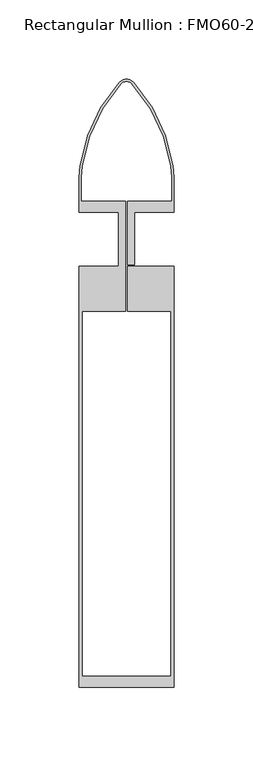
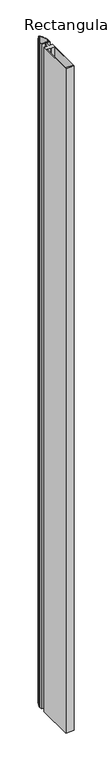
"""IFC4 building model written with IfcOpenShell, lengths in millimetres: member geometry, Rectangular Mullion : FMO60-270...FM60-80."""

from ifc_helpers import new_model, si_unit, frame, origin, place, context, project, spatial, polyline, circle_curve, source, transform, mapped, element, save
from ifc_brep_helpers import plane_surface, cylinder_surface, revolved_surface, advanced_brep


def rectangular_mullion_fmo60_270_fm60_80_afe78c0d(model_context):
    return source(origin(), model_context, "Body", "AdvancedBrep", [
        advanced_brep(
        [(-4.7233463, 98.6502996, 0.0), (-29.4612692, 46.2333488, 0.0), (-30.0, 38.9133183, 0.0), (-30.0, 17.0, 0.0), (-5.0, 17.0, 0.0), (-5.0, -17.0, 0.0), (-30.0, -17.0, 0.0), (-30.0, -283.009342, 0.0), (30.0, -283.009342, 0.0), (30.0, -17.0, 0.0), (0.5, -17.0, 0.0), (0.5, -45.5034642, 0.0), (28.0, -45.5034642, 0.0), (28.0, -276.0034417, 0.0), (-28.0, -276.0034417, 0.0), (-28.0, -45.5034642, 0.0), (-0.5, -45.5034642, 0.0), (-0.5, 23.8476589, 0.0), (-28.6, 23.8476589, 0.0), (-28.6, 38.9133183, 0.0), (-28.0754927, 46.0342032, 0.0), (-3.6212321, 97.7869663, 0.0), (0.0, 99.5502996, 0.0), (3.6212321, 97.7869663, 0.0), (28.0763537, 46.0283879, 0.0), (28.6, 38.9133183, 0.0), (28.6000412, 23.8476589, 0.0), (0.5, 23.8476589, 0.0), (0.5, -16.2, 0.0), (5.0, -16.2, 0.0), (5.0, 17.0, 0.0), (30.0, 17.0, 0.0), (30.0, 38.9133183, 0.0), (29.4612692, 46.2333488, 0.0), (4.7233463, 98.6502996, 0.0), (0.0, 100.9502996, 0.0), (-4.7233463, 98.6502996, -5000.0), (0.0, 100.9502996, -5000.0), (4.7233463, 98.6502996, -5000.0), (29.4612692, 46.2333488, -5000.0), (30.0, 38.9133183, -5000.0), (30.0, 17.0, -5000.0), (5.0, 17.0, -5000.0), (5.0, -16.2, -5000.0), (0.5, -16.2, -5000.0), (0.5, 23.8476589, -5000.0), (28.6000412, 23.8476589, -5000.0), (28.6000412, 38.9133183, -5000.0), (28.0754927, 46.0342032, -5000.0), (3.6212321, 97.7869663, -5000.0), (0.0, 99.5502996, -5000.0), (-3.6212321, 97.7869663, -5000.0), (-28.0763537, 46.0283879, -5000.0), (-28.6, 38.9133183, -5000.0), (-28.6, 23.8476589, -5000.0), (-0.5, 23.8476589, -5000.0), (-0.5, -45.5034642, -5000.0), (-28.0, -45.5034642, -5000.0), (-28.0, -276.0034417, -5000.0), (28.0, -276.0034417, -5000.0), (28.0, -45.5034642, -5000.0), (0.5, -45.5034642, -5000.0), (0.5, -17.0, -5000.0), (30.0, -17.0, -5000.0), (30.0, -283.009342, -5000.0), (-30.0, -283.009342, -5000.0), (-30.0, -17.0, -5000.0), (-5.0, -17.0, -5000.0), (-5.0, 17.0, -5000.0), (-30.0, 17.0, -5000.0), (-30.0, 38.9133183, -5000.0), (-29.4612692, 46.2333488, -5000.0)],
        [
            (0, 1, circle_curve(frame((69.4612692, 31.5932879, 0.0), z_axis=(0.0, 0.0, 1.0), x_axis=(-0.989225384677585, 0.14640060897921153, 0.0)), 100.0)),
            (1, 2, circle_curve(frame((20.0, 38.9133183, 0.0), z_axis=(0.0, 0.0, 1.0), x_axis=(-1.0, 0.0, 0.0)), 50.0)),
            (2, 3),
            (3, 4),
            (4, 5),
            (5, 6),
            (6, 7),
            (7, 8),
            (8, 9),
            (9, 10),
            (10, 11),
            (11, 12),
            (12, 13),
            (13, 14),
            (14, 15),
            (15, 16),
            (16, 17),
            (17, 18),
            (18, 19),
            (19, 20, circle_curve(frame((20.0, 38.9133183, 0.0), z_axis=(0.0, 0.0, -1.0), x_axis=(-0.9892253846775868, 0.1464006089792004, 0.0)), 48.6)),
            (20, 21, circle_curve(frame((69.5008187, 31.5813159, 0.0), z_axis=(0.0, 0.0, -1.0), x_axis=(-0.7412956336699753, 0.6711786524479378, 0.0)), 98.6408763)),
            (21, 22, circle_curve(frame((0.0, 94.9502996, 0.0), z_axis=(0.0, 0.0, -1.0), x_axis=(2.979563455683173e-11, 1.0, 0.0)), 4.6)),
            (22, 23, circle_curve(frame((0.0, 94.9502996, 0.0), z_axis=(0.0, 0.0, -1.0), x_axis=(0.7872243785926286, 0.6166666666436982, 0.0)), 4.6)),
            (23, 24, circle_curve(frame((-69.5008187, 31.5813159, 0.0), z_axis=(0.0, 0.0, -1.0), x_axis=(0.9892163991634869, 0.1464613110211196, 0.0)), 98.6408763)),
            (24, 25, circle_curve(frame((-20.0, 38.9133183, 0.0), z_axis=(0.0, 0.0, -1.0), x_axis=(1.0, 0.0, 0.0)), 48.6)),
            (25, 26),
            (26, 27),
            (27, 28),
            (28, 29),
            (29, 30),
            (30, 31),
            (31, 32),
            (32, 33, circle_curve(frame((-20.0, 38.9133183, 0.0), z_axis=(0.0, 0.0, 1.0), x_axis=(0.9892253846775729, 0.14640060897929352, 0.0)), 50.0)),
            (33, 34, circle_curve(frame((-69.4612692, 31.5932879, 0.0), z_axis=(0.0, 0.0, 1.0), x_axis=(0.7418461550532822, 0.6705701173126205, 0.0)), 100.0)),
            (34, 35, circle_curve(frame((0.0, 94.9502996, 0.0), z_axis=(0.0, 0.0, 1.0), x_axis=(2.31065537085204e-11, 1.0, 0.0)), 6.0)),
            (35, 0, circle_curve(frame((0.0, 94.9502996, 0.0), z_axis=(0.0, 0.0, 1.0), x_axis=(-0.7872243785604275, 0.6166666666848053, 0.0)), 6.0)),
            (36, 37, circle_curve(frame((0.0, 94.9502996, -5000.0), z_axis=(0.0, 0.0, -1.0), x_axis=(-0.7872243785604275, 0.6166666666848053, 0.0)), 6.0)),
            (37, 38, circle_curve(frame((0.0, 94.9502996, -5000.0), z_axis=(0.0, 0.0, -1.0), x_axis=(2.31065537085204e-11, 1.0, 0.0)), 6.0)),
            (38, 39, circle_curve(frame((-69.4612692, 31.5932879, -5000.0), z_axis=(0.0, 0.0, -1.0), x_axis=(0.7418461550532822, 0.6705701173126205, 0.0)), 100.0)),
            (39, 40, circle_curve(frame((-20.0, 38.9133183, -5000.0), z_axis=(0.0, 0.0, -1.0), x_axis=(0.9892253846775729, 0.14640060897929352, 0.0)), 50.0)),
            (40, 41),
            (41, 42),
            (42, 43),
            (43, 44),
            (44, 45),
            (45, 46),
            (46, 47),
            (47, 48, circle_curve(frame((-20.0, 38.9133183, -5000.0), z_axis=(0.0, 0.0, 1.0), x_axis=(1.0, 0.0, 0.0)), 48.6)),
            (48, 49, circle_curve(frame((-69.5008187, 31.5813159, -5000.0), z_axis=(0.0, 0.0, 1.0), x_axis=(0.9892163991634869, 0.1464613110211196, 0.0)), 98.6408763)),
            (49, 50, circle_curve(frame((0.0, 94.9502996, -5000.0), z_axis=(0.0, 0.0, 1.0), x_axis=(0.7872243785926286, 0.6166666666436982, 0.0)), 4.6)),
            (50, 51, circle_curve(frame((0.0, 94.9502996, -5000.0), z_axis=(0.0, 0.0, 1.0), x_axis=(2.979563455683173e-11, 1.0, 0.0)), 4.6)),
            (51, 52, circle_curve(frame((69.5008187, 31.5813159, -5000.0), z_axis=(0.0, 0.0, 1.0), x_axis=(-0.7412956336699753, 0.6711786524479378, 0.0)), 98.6408763)),
            (52, 53, circle_curve(frame((20.0, 38.9133183, -5000.0), z_axis=(0.0, 0.0, 1.0), x_axis=(-0.9892253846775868, 0.1464006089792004, 0.0)), 48.6)),
            (53, 54),
            (54, 55),
            (55, 56),
            (56, 57),
            (57, 58),
            (58, 59),
            (59, 60),
            (60, 61),
            (61, 62),
            (62, 63),
            (63, 64),
            (64, 65),
            (65, 66),
            (66, 67),
            (67, 68),
            (68, 69),
            (69, 70),
            (70, 71, circle_curve(frame((20.0, 38.9133183, -5000.0), z_axis=(0.0, 0.0, -1.0), x_axis=(-1.0, 0.0, 0.0)), 50.0)),
            (71, 36, circle_curve(frame((69.4612692, 31.5932879, -5000.0), z_axis=(0.0, 0.0, -1.0), x_axis=(-0.989225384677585, 0.14640060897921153, 0.0)), 100.0)),
            (0, 36),
            (71, 1),
            (70, 2),
            (69, 3),
            (68, 4),
            (67, 5),
            (66, 6),
            (65, 7),
            (64, 8),
            (63, 9),
            (62, 10),
            (61, 11),
            (60, 12),
            (59, 13),
            (58, 14),
            (57, 15),
            (56, 16),
            (55, 17),
            (54, 18),
            (53, 19),
            (52, 20),
            (51, 21),
            (50, 22),
            (49, 23),
            (48, 24),
            (47, 25),
            (46, 26),
            (45, 27),
            (44, 28),
            (43, 29),
            (42, 30),
            (41, 31),
            (40, 32),
            (39, 33),
            (38, 34),
            (37, 35),
        ],
        [
            plane_surface(frame((0.0, -284.5949537, 0.0), z_axis=(0.0, 0.0, 1.0), x_axis=(-1.0, 0.0, 0.0))),
            plane_surface(frame((0.0, -284.5949537, -5000.0), z_axis=(0.0, 0.0, -1.0), x_axis=(-1.0, 0.0, 0.0))),
            cylinder_surface(frame((69.4612692, 31.5932879, 0.0), z_axis=(0.0, 0.0, 1.0), x_axis=(-0.989225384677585, 0.14640060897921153, 0.0)), 100.0),
            cylinder_surface(frame((20.0, 38.9133183, 0.0), z_axis=(0.0, 0.0, 1.0), x_axis=(-1.0, 0.0, 0.0)), 50.0),
            plane_surface(frame((-30.0, 38.9133183, 0.0), z_axis=(-1.0, 0.0, 0.0), x_axis=(0.0, 0.0, -1.0))),
            plane_surface(frame((-30.0, 17.0, 0.0), z_axis=(0.0, -1.0, 0.0), x_axis=(0.0, 0.0, -1.0))),
            plane_surface(frame((-5.0, 17.0, 0.0), z_axis=(-1.0, 0.0, 0.0), x_axis=(0.0, 0.0, -1.0))),
            plane_surface(frame((-5.0, -17.0, 0.0), z_axis=(0.0, 1.0, 0.0), x_axis=(0.0, 0.0, -1.0))),
            plane_surface(frame((-30.0, -17.0, 0.0), z_axis=(-1.0, 0.0, 0.0), x_axis=(0.0, 0.0, -1.0))),
            plane_surface(frame((-30.0, -283.009342, 0.0), z_axis=(0.0, -1.0, 0.0), x_axis=(0.0, 0.0, -1.0))),
            plane_surface(frame((30.0, -283.009342, 0.0), z_axis=(1.0, 0.0, 0.0), x_axis=(0.0, 0.0, -1.0))),
            plane_surface(frame((30.0, -17.0, 0.0), z_axis=(0.0, 1.0, 0.0), x_axis=(0.0, 0.0, -1.0))),
            plane_surface(frame((0.5, -17.0, 0.0), z_axis=(-1.0, 0.0, 0.0), x_axis=(0.0, 0.0, -1.0))),
            plane_surface(frame((0.5, -45.5034642, 0.0), z_axis=(0.0, -1.0, 0.0), x_axis=(0.0, 0.0, -1.0))),
            plane_surface(frame((28.0, -45.5034642, 0.0), z_axis=(-1.0, 0.0, 0.0), x_axis=(0.0, 0.0, -1.0))),
            plane_surface(frame((28.0, -276.0034417, 0.0), z_axis=(0.0, 1.0, 0.0), x_axis=(0.0, 0.0, -1.0))),
            plane_surface(frame((-28.0, -276.0034417, 0.0), z_axis=(1.0, 0.0, 0.0), x_axis=(0.0, 0.0, -1.0))),
            plane_surface(frame((-28.0, -45.5034642, 0.0), z_axis=(0.0, -1.0, 0.0), x_axis=(0.0, 0.0, -1.0))),
            plane_surface(frame((-0.5, -45.5034642, 0.0), z_axis=(1.0, 0.0, 0.0), x_axis=(0.0, 0.0, -1.0))),
            plane_surface(frame((-0.5, 23.8476589, 0.0), z_axis=(0.0, 1.0, 0.0), x_axis=(0.0, 0.0, -1.0))),
            plane_surface(frame((-28.6, 23.8476589, 0.0), z_axis=(1.0, 0.0, 0.0), x_axis=(0.0, 0.0, -1.0))),
            revolved_surface(polyline([(-28.076353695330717, 46.02838789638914, -5000.000000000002), (-28.076353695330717, 46.02838789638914, 0.0)]), (20.0, 38.9133183, 0.0), (0.0, 0.0, -1.0000000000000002)),
            revolved_surface(polyline([(-3.6212322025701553, 97.78696633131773, -5000.0), (-3.6212322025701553, 97.78696633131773, 0.0)]), (69.5008187, 31.5813159, 0.0), (0.0, 0.0, -1.0)),
            revolved_surface(polyline([(1.3705991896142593e-10, 99.55029959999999, -5000.0), (1.3705991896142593e-10, 99.55029959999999, 0.0)]), (0.0, 94.9502996, 0.0), (0.0, 0.0, -1.0)),
            revolved_surface(polyline([(3.6212321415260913, 97.78696626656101, -5000.000000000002), (3.6212321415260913, 97.78696626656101, 0.0)]), (0.0, 94.9502996, 0.0), (0.0, 0.0, -1.0000000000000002)),
            revolved_surface(polyline([(28.07635376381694, 46.02838796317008, -5000.000000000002), (28.07635376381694, 46.02838796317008, 0.0)]), (-69.5008187, 31.5813159, 0.0), (0.0, 0.0, -1.0000000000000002)),
            revolved_surface(polyline([(28.6, 38.9133183, -5000.0), (28.6, 38.9133183, 0.0)]), (-20.0, 38.9133183, 0.0), (0.0, 0.0, -1.0)),
            plane_surface(frame((28.6000412, 38.9133183, 0.0), z_axis=(-1.0, 0.0, 0.0), x_axis=(0.0, 0.0, -1.0))),
            plane_surface(frame((28.6000412, 23.8476589, 0.0), z_axis=(0.0, 1.0, 0.0), x_axis=(0.0, 0.0, -1.0))),
            plane_surface(frame((0.5, 23.8476589, 0.0), z_axis=(-1.0, 0.0, 0.0), x_axis=(0.0, 0.0, -1.0))),
            plane_surface(frame((0.5, -16.2, 0.0), z_axis=(0.0, -1.0, 0.0), x_axis=(0.0, 0.0, -1.0))),
            plane_surface(frame((5.0, -16.2, 0.0), z_axis=(1.0, 0.0, 0.0), x_axis=(0.0, 0.0, -1.0))),
            plane_surface(frame((5.0, 17.0, 0.0), z_axis=(0.0, -1.0, 0.0), x_axis=(0.0, 0.0, -1.0))),
            plane_surface(frame((30.0, 17.0, 0.0), z_axis=(1.0, 0.0, 0.0), x_axis=(0.0, 0.0, -1.0))),
            cylinder_surface(frame((-20.0, 38.9133183, 0.0), z_axis=(0.0, 0.0, 1.0000000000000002), x_axis=(0.9892253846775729, 0.14640060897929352, 0.0)), 50.0),
            cylinder_surface(frame((-69.4612692, 31.5932879, 0.0), z_axis=(0.0, 0.0, 1.0), x_axis=(0.7418461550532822, 0.6705701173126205, 0.0)), 100.0),
            cylinder_surface(frame((0.0, 94.9502996, 0.0), z_axis=(0.0, 0.0, 1.0), x_axis=(2.31065537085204e-11, 1.0, 0.0)), 6.0),
            cylinder_surface(frame((0.0, 94.9502996, 0.0), z_axis=(0.0, 0.0, 1.0), x_axis=(-0.7872243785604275, 0.6166666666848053, 0.0)), 6.0),
        ],
        [
            (0, [[1, 2, 3, 4, 5, 6, 7, 8, 9, 10, 11, 12, 13, 14, 15, 16, 17, 18, 19, 20, 21, 22, 23, 24, 25, 26, 27, 28, 29, 30, 31, 32, 33, 34, 35, 36]]),
            (1, [[37, 38, 39, 40, 41, 42, 43, 44, 45, 46, 47, 48, 49, 50, 51, 52, 53, 54, 55, 56, 57, 58, 59, 60, 61, 62, 63, 64, 65, 66, 67, 68, 69, 70, 71, 72]]),
            (2, [[-1, 73, -72, 74]]),
            (3, [[-2, -74, -71, 75]]),
            (4, [[-3, -75, -70, 76]]),
            (5, [[-4, -76, -69, 77]]),
            (6, [[-5, -77, -68, 78]]),
            (7, [[-6, -78, -67, 79]]),
            (8, [[-7, -79, -66, 80]]),
            (9, [[-8, -80, -65, 81]]),
            (10, [[-9, -81, -64, 82]]),
            (11, [[-10, -82, -63, 83]]),
            (12, [[-11, -83, -62, 84]]),
            (13, [[-12, -84, -61, 85]]),
            (14, [[-13, -85, -60, 86]]),
            (15, [[-14, -86, -59, 87]]),
            (16, [[-15, -87, -58, 88]]),
            (17, [[-16, -88, -57, 89]]),
            (18, [[-17, -89, -56, 90]]),
            (19, [[-18, -90, -55, 91]]),
            (20, [[-19, -91, -54, 92]]),
            (21, [[-20, -92, -53, 93]]),
            (22, [[-21, -93, -52, 94]]),
            (23, [[-22, -94, -51, 95]]),
            (24, [[-23, -95, -50, 96]]),
            (25, [[-24, -96, -49, 97]]),
            (26, [[-25, -97, -48, 98]]),
            (27, [[-26, -98, -47, 99]]),
            (28, [[-27, -99, -46, 100]]),
            (29, [[-28, -100, -45, 101]]),
            (30, [[-29, -101, -44, 102]]),
            (31, [[-30, -102, -43, 103]]),
            (32, [[-31, -103, -42, 104]]),
            (33, [[-32, -104, -41, 105]]),
            (34, [[-33, -105, -40, 106]]),
            (35, [[-34, -106, -39, 107]]),
            (36, [[-35, -107, -38, 108]]),
            (37, [[-36, -108, -37, -73]]),
        ],
    ),
    ])


if __name__ == "__main__":
    model = new_model("IFC4")
    model_context = context("Model", 3, world=origin())
    ifc_project = project(units=[si_unit("LENGTHUNIT", "METRE", prefix="MILLI")], contexts=[model_context])
    site = spatial("IfcSite", under=ifc_project)
    building = spatial("IfcBuilding", under=site)
    placement = place(None, origin())
    rectangular_mullion_fmo60_270_fm60_80_shape = rectangular_mullion_fmo60_270_fm60_80_afe78c0d(model_context)
    element("IfcMember", 1, ObjectType="Rectangular Mullion : FMO60-270...FM60-80", at=placement, inside=building, context=model_context, shape_type="MappedRepresentation", body=[
        mapped(rectangular_mullion_fmo60_270_fm60_80_shape, transform((0.0, 0.0, 0.0), x_axis=(1.0, 0.0, 0.0), y_axis=(0.0, 1.0, 0.0), z_axis=(0.0, 0.0, 1.0))),
    ])
    save(model, "model.ifc")
